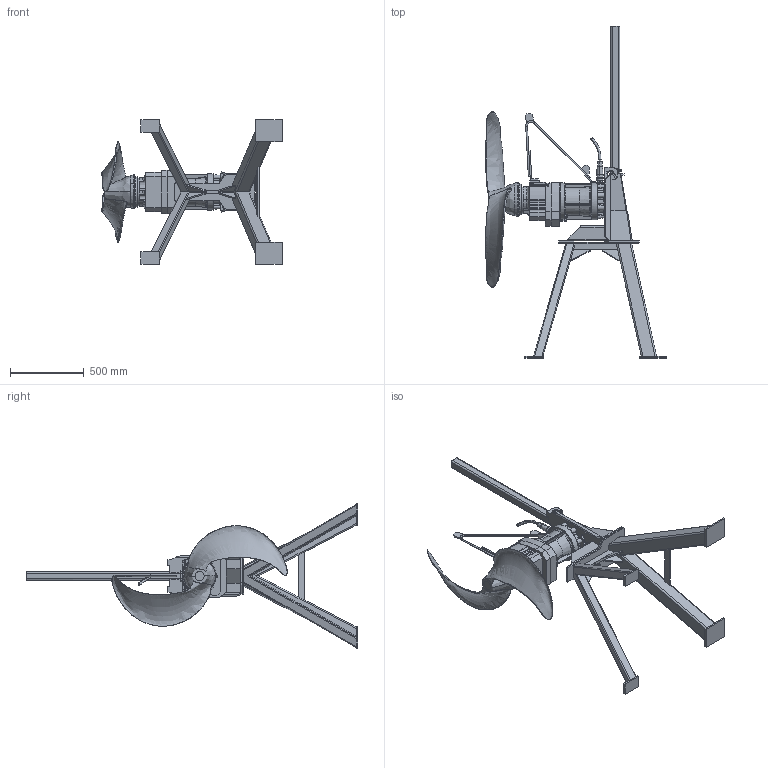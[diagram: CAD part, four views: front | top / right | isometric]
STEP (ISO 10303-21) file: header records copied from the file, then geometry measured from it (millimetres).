
FILE_DESCRIPTION (( 'STEP AP214' ), '1' );
FILE_NAME ('SB1200 Steel pedestal 780_MSD.STEP', '2017-03-31T06:53:10', ( '' ), ( '' ), 'SwSTEP 2.0', 'SolidWorks 2017', '' );
FILE_SCHEMA (( 'AUTOMOTIVE_DESIGN' ));
Length unit declared in the file: millimetre
Products named in the file (1): SB1200 Steel pedestal 780_MSD
Bounding box: 1220.15 x 2244.33 x 977.92 mm (x, y, z)
Volume: 76895475.4 mm3; surface area: 4287126.1 mm2
Topology: 11 solids, 12 shells, 1500 faces, 3747 edges, 2222 vertices
Faces by surface type: plane 492, cylinder 352, bspline 266, torus 228, sphere 83, cone 79
Entity records: 183800 total; most frequent: CARTESIAN_POINT 133409, ORIENTED_EDGE 7346, DIRECTION 6915, EDGE_CURVE 3673, AXIS2_PLACEMENT_3D 2698, VERTEX_POINT 2210, EDGE_LOOP 1543, LINE 1519
